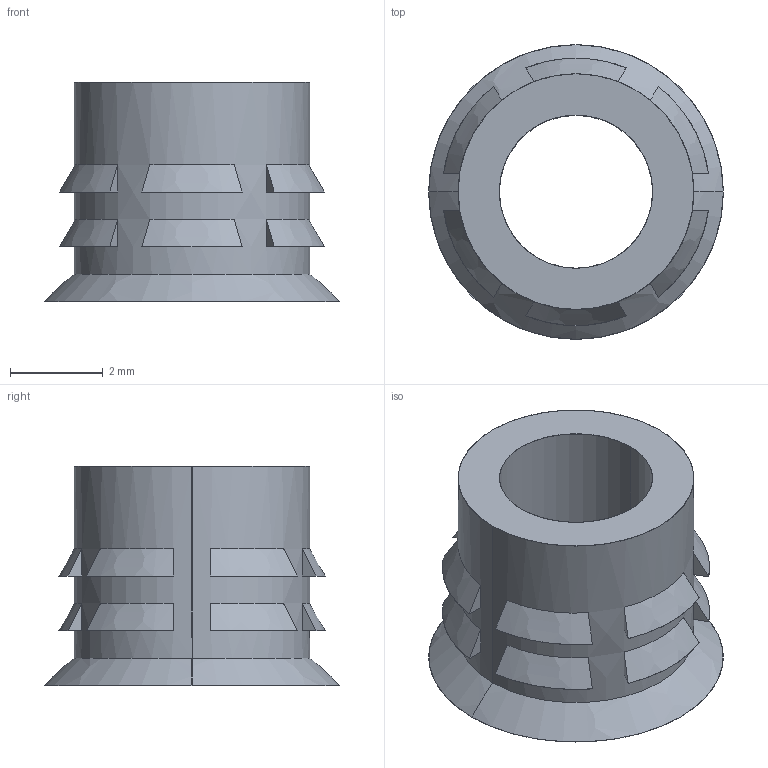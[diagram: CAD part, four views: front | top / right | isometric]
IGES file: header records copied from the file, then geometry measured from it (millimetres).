
Start section: SolidWorks IGES file using analytic representation for surfaces
Global section: file name: G:\thermofab project\INSERT\insert project\INSERT 3D\insert M4 S1.IGS; native system: SolidWorks 2015; preprocessor: SolidWorks 2015; author: Administrator; date: 170809.191752; units: millimetre
Bounding box: 6.35 x 6.35 x 4.72 mm (x, y, z)
Surface area: 177.7 mm2 (no closed solid volume)
Topology: 0 solids, 0 shells, 58 faces, 448 edges, 448 vertices
Faces by surface type: bspline 52, revolution 6
